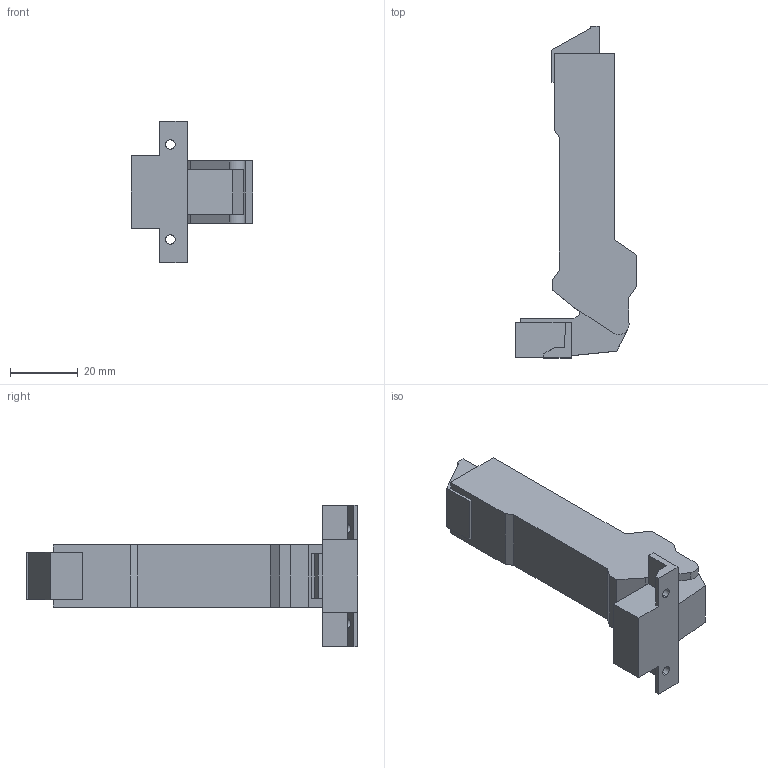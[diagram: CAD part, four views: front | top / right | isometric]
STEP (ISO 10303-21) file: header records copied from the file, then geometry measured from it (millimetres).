
FILE_DESCRIPTION (( 'STEP AP214' ), '1' );
FILE_NAME ('Scharnier TS Click-on 110° AL, K95.step', '2010-12-13T09:56:06', ( 'grass' ), ( '' ), 'SwSTEP 2.0', 'SolidWorks 2010', '' );
FILE_SCHEMA (( 'AUTOMOTIVE_DESIGN' ));
Length unit declared in the file: millimetre
Products named in the file (1): Scharnier TS Click-on 110° AL, K95
Bounding box: 35.75 x 97.8 x 41.8 mm (x, y, z)
Volume: 33570 mm3; surface area: 9496.8 mm2
Topology: 1 solids, 1 shells, 64 faces, 183 edges, 122 vertices
Faces by surface type: plane 53, cylinder 11
Entity records: 2111 total; most frequent: CARTESIAN_POINT 388, ORIENTED_EDGE 366, DIRECTION 329, EDGE_CURVE 183, LINE 155, VECTOR 155, VERTEX_POINT 122, AXIS2_PLACEMENT_3D 87
